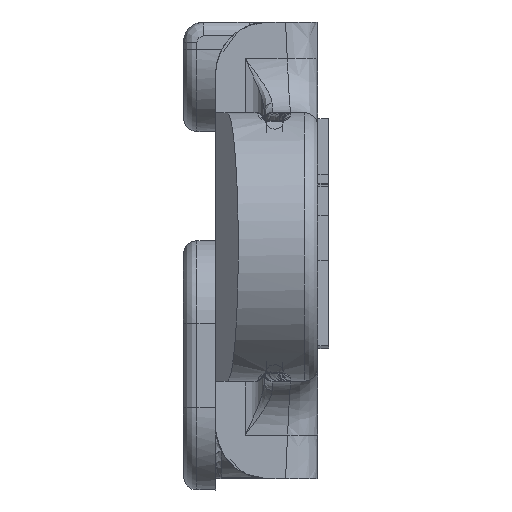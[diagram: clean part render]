
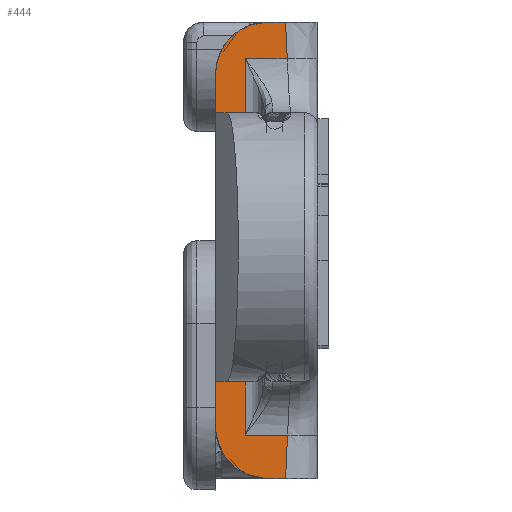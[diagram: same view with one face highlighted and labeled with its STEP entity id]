
A CAD part, left-side view. The second image highlights one B-rep face of the part: STEP entity #444.
In plain terms, the highlighted planar face has unit normal (-1, 0, 0).
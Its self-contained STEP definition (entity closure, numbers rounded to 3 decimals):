
#444=ADVANCED_FACE('',(#1041),#9334,.T.);
#1041=FACE_OUTER_BOUND('',#1658,.T.);
#1658=EDGE_LOOP('',(#3983,#3984,#3985,#3986,#3987,#3988,#3989,#3990,#3991,
#3992));
#3983=ORIENTED_EDGE('',*,*,#6000,.F.);
#3984=ORIENTED_EDGE('',*,*,#6001,.F.);
#3985=ORIENTED_EDGE('',*,*,#6008,.F.);
#3986=ORIENTED_EDGE('',*,*,#6002,.F.);
#3987=ORIENTED_EDGE('',*,*,#6228,.F.);
#3988=ORIENTED_EDGE('',*,*,#5996,.F.);
#3989=ORIENTED_EDGE('',*,*,#6232,.F.);
#3990=ORIENTED_EDGE('',*,*,#6003,.F.);
#3991=ORIENTED_EDGE('',*,*,#6007,.F.);
#3992=ORIENTED_EDGE('',*,*,#5999,.F.);
#5996=EDGE_CURVE('',#8678,#8679,#7732,.T.);
#5999=EDGE_CURVE('',#8680,#8681,#7735,.T.);
#6000=EDGE_CURVE('',#8682,#8680,#7736,.T.);
#6001=EDGE_CURVE('',#8683,#8682,#7737,.T.);
#6002=EDGE_CURVE('',#8685,#8684,#7738,.T.);
#6003=EDGE_CURVE('',#8687,#8686,#7739,.T.);
#6007=EDGE_CURVE('',#8681,#8687,#7741,.T.);
#6008=EDGE_CURVE('',#8684,#8683,#7742,.T.);
#6228=EDGE_CURVE('',#8679,#8685,#6723,.T.);
#6232=EDGE_CURVE('',#8686,#8678,#6725,.T.);
#6723=(
BOUNDED_CURVE()
B_SPLINE_CURVE(2,(#29852,#29853,#29854),.UNSPECIFIED.,.F.,.F.)
B_SPLINE_CURVE_WITH_KNOTS((3,3),(0.,0.003),.UNSPECIFIED.)
CURVE()
GEOMETRIC_REPRESENTATION_ITEM()
RATIONAL_B_SPLINE_CURVE((1.,0.707,1.))
REPRESENTATION_ITEM('')
);
#6725=(
BOUNDED_CURVE()
B_SPLINE_CURVE(2,(#29862,#29863,#29864),.UNSPECIFIED.,.F.,.F.)
B_SPLINE_CURVE_WITH_KNOTS((3,3),(0.,0.003),.UNSPECIFIED.)
CURVE()
GEOMETRIC_REPRESENTATION_ITEM()
RATIONAL_B_SPLINE_CURVE((1.,0.707,1.))
REPRESENTATION_ITEM('')
);
#7732=B_SPLINE_CURVE_WITH_KNOTS('',1,(#28282,#28283),.UNSPECIFIED.,.F.,
 .F.,(2,2),(0.,0.013),.UNSPECIFIED.);
#7735=B_SPLINE_CURVE_WITH_KNOTS('',1,(#28288,#28289),.UNSPECIFIED.,.F.,
 .F.,(2,2),(-0.002,0.),.UNSPECIFIED.);
#7736=B_SPLINE_CURVE_WITH_KNOTS('',1,(#28290,#28291),.UNSPECIFIED.,.F.,
 .F.,(2,2),(-0.014,0.),.UNSPECIFIED.);
#7737=B_SPLINE_CURVE_WITH_KNOTS('',1,(#28292,#28293),.UNSPECIFIED.,.F.,
 .F.,(2,2),(-0.002,0.),.UNSPECIFIED.);
#7738=B_SPLINE_CURVE_WITH_KNOTS('',1,(#28294,#28295),.UNSPECIFIED.,.F.,
 .F.,(2,2),(-0.001,0.),.UNSPECIFIED.);
#7739=B_SPLINE_CURVE_WITH_KNOTS('',1,(#28296,#28297),.UNSPECIFIED.,.F.,
 .F.,(2,2),(-0.001,0.),.UNSPECIFIED.);
#7741=B_SPLINE_CURVE_WITH_KNOTS('',3,(#28310,#28311,#28312,#28313,#28314,
#28315),.UNSPECIFIED.,.F.,.F.,(4,2,4),(0.,0.001,0.002),
 .UNSPECIFIED.);
#7742=B_SPLINE_CURVE_WITH_KNOTS('',3,(#28316,#28317,#28318,#28319,#28320,
#28321),.UNSPECIFIED.,.F.,.F.,(4,2,4),(0.,0.001,0.001),
 .UNSPECIFIED.);
#8678=VERTEX_POINT('',#24791);
#8679=VERTEX_POINT('',#24792);
#8680=VERTEX_POINT('',#24793);
#8681=VERTEX_POINT('',#24794);
#8682=VERTEX_POINT('',#24795);
#8683=VERTEX_POINT('',#24796);
#8684=VERTEX_POINT('',#24797);
#8685=VERTEX_POINT('',#24798);
#8686=VERTEX_POINT('',#24799);
#8687=VERTEX_POINT('',#24800);
#9334=PLANE('',#9680);
#9680=AXIS2_PLACEMENT_3D('',#16066,#9874,$);
#9874=DIRECTION('',(-1.,0.,0.));
#16066=CARTESIAN_POINT('',(-149.5,602.079,-610.343));
#24791=CARTESIAN_POINT('',(-149.5,1.8,-6.7));
#24792=CARTESIAN_POINT('',(-149.5,1.8,6.437));
#24793=CARTESIAN_POINT('',(-149.5,0.7,-7.));
#24794=CARTESIAN_POINT('',(-149.5,-0.874,-7.));
#24795=CARTESIAN_POINT('',(-149.5,0.7,7.));
#24796=CARTESIAN_POINT('',(-149.5,-0.862,7.));
#24797=CARTESIAN_POINT('',(-149.5,-0.8,8.369));
#24798=CARTESIAN_POINT('',(-149.5,-0.131,8.369));
#24799=CARTESIAN_POINT('',(-149.5,-0.131,-8.631));
#24800=CARTESIAN_POINT('',(-149.5,-0.8,-8.631));
#28282=CARTESIAN_POINT('',(-149.5,1.8,-6.7));
#28283=CARTESIAN_POINT('',(-149.5,1.8,6.437));
#28288=CARTESIAN_POINT('',(-149.5,0.7,-7.));
#28289=CARTESIAN_POINT('',(-149.5,-0.874,-7.));
#28290=CARTESIAN_POINT('',(-149.5,0.7,7.));
#28291=CARTESIAN_POINT('',(-149.5,0.7,-7.));
#28292=CARTESIAN_POINT('',(-149.5,-0.862,7.));
#28293=CARTESIAN_POINT('',(-149.5,0.7,7.));
#28294=CARTESIAN_POINT('',(-149.5,-0.131,8.369));
#28295=CARTESIAN_POINT('',(-149.5,-0.8,8.369));
#28296=CARTESIAN_POINT('',(-149.5,-0.8,-8.631));
#28297=CARTESIAN_POINT('',(-149.5,-0.131,-8.631));
#28310=CARTESIAN_POINT('',(-149.5,-0.874,-7.));
#28311=CARTESIAN_POINT('',(-149.5,-0.862,-7.326));
#28312=CARTESIAN_POINT('',(-149.5,-0.848,-7.593));
#28313=CARTESIAN_POINT('',(-149.5,-0.823,-8.125));
#28314=CARTESIAN_POINT('',(-149.5,-0.812,-8.378));
#28315=CARTESIAN_POINT('',(-149.5,-0.8,-8.631));
#28316=CARTESIAN_POINT('',(-149.5,-0.8,8.369));
#28317=CARTESIAN_POINT('',(-149.5,-0.81,8.157));
#28318=CARTESIAN_POINT('',(-149.5,-0.82,7.946));
#28319=CARTESIAN_POINT('',(-149.5,-0.84,7.501));
#28320=CARTESIAN_POINT('',(-149.5,-0.852,7.278));
#28321=CARTESIAN_POINT('',(-149.5,-0.862,7.));
#29852=CARTESIAN_POINT('',(-149.5,1.8,6.437));
#29853=CARTESIAN_POINT('',(-149.5,1.8,8.369));
#29854=CARTESIAN_POINT('',(-149.5,-0.131,8.369));
#29862=CARTESIAN_POINT('',(-149.5,-0.131,-8.631));
#29863=CARTESIAN_POINT('',(-149.5,1.8,-8.631));
#29864=CARTESIAN_POINT('',(-149.5,1.8,-6.7));
